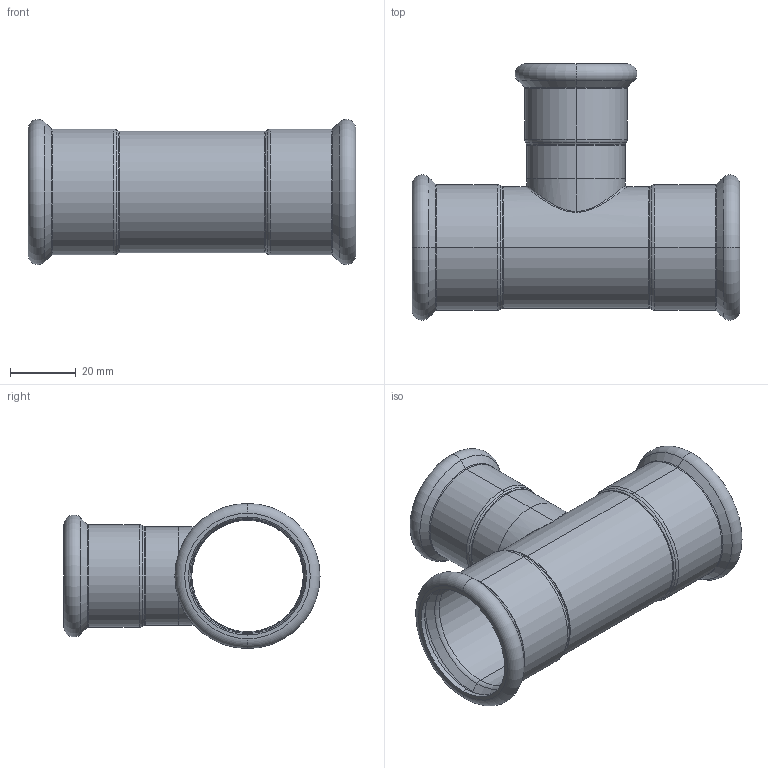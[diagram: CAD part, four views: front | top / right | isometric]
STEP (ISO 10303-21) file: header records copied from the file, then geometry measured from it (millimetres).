
FILE_DESCRIPTION (( 'STEP AP203' ), '1' );
FILE_NAME ('GDA5200.STEP', '2019-01-21T06:29:14', ( '' ), ( '' ), 'SwSTEP 2.0', 'SolidWorks 2015', '' );
FILE_SCHEMA (( 'CONFIG_CONTROL_DESIGN' ));
Length unit declared in the file: millimetre
Products named in the file (3): GDA5200; T(R)-¢ñ-35¡Á28''; T-ｉ-01-28
Assembly tree (2 placements, depth 2):
  GDA5200
    T(R)-¢ñ-35¡Á28''
    T-ｉ-01-28
Bounding box: 100 x 78.15 x 44.29 mm (x, y, z)
Volume: 23579 mm3; surface area: 32191.5 mm2
Topology: 2 solids, 2 shells, 114 faces, 234 edges, 128 vertices
Faces by surface type: torus 48, cylinder 30, cone 24, plane 8, bspline 4
Entity records: 4419 total; most frequent: CARTESIAN_POINT 1629, DIRECTION 620, ORIENTED_EDGE 468, AXIS2_PLACEMENT_3D 283, EDGE_CURVE 234, CIRCLE 168, VERTEX_POINT 128, EDGE_LOOP 124
